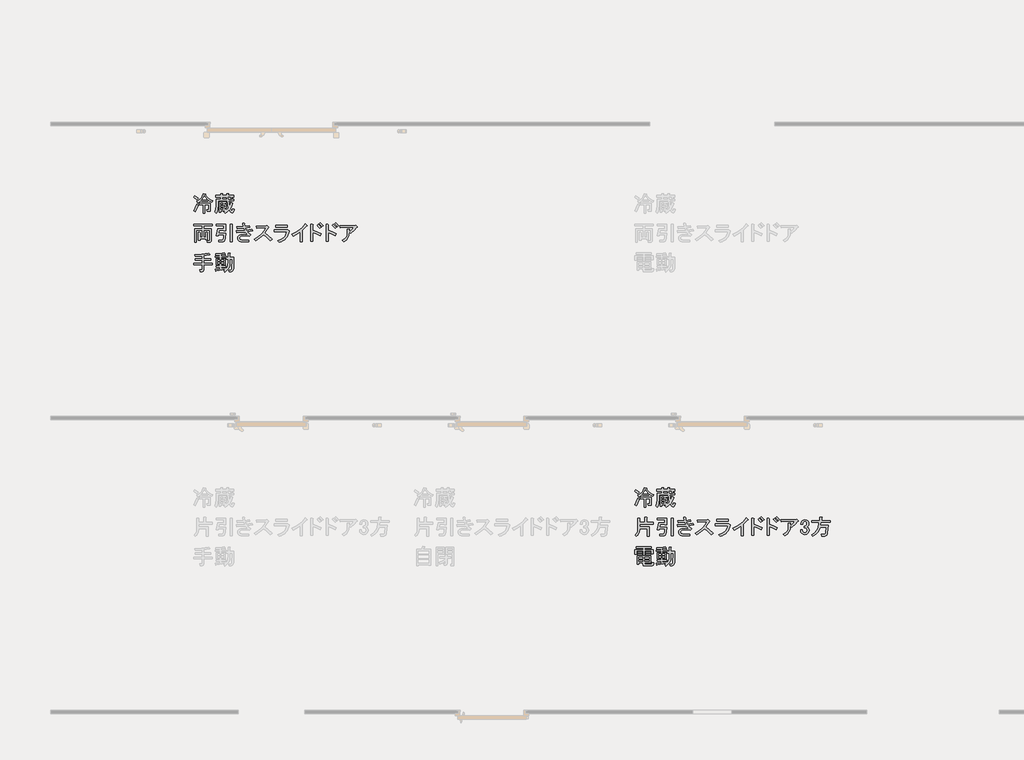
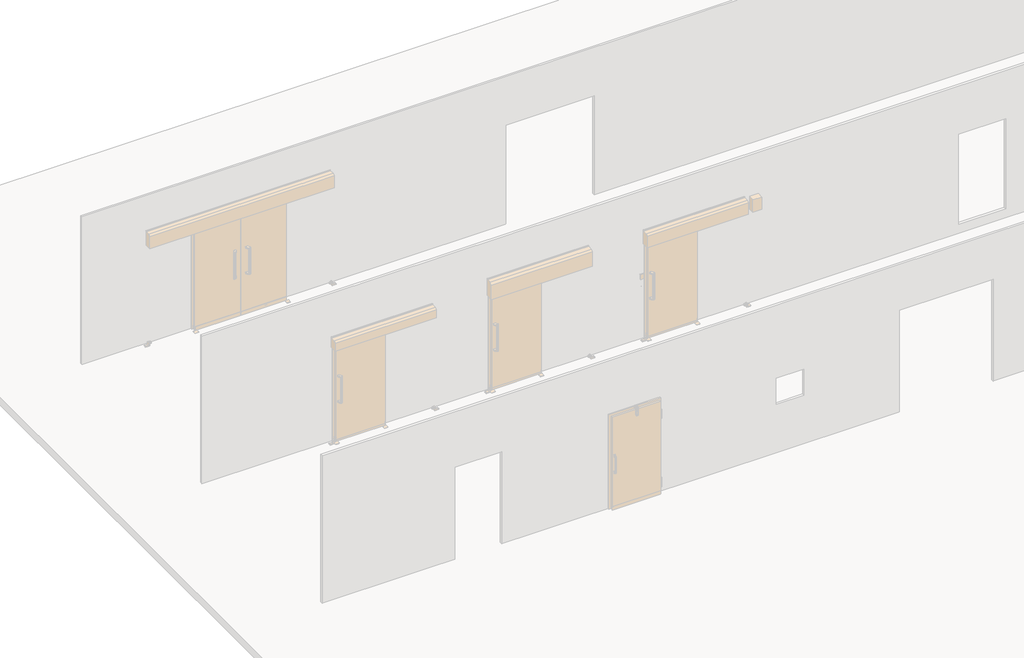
# One storey, part 76 of 117: 2 proxies.
"""IFC4 building model written with IfcOpenShell, lengths in millimetres."""

from ifc_helpers import new_model, si_unit, frame, origin, place, context, project, spatial, polyline, outline, extrude, element, save

model = new_model("IFC4")

# Units and contexts
model_context = context("Model", 3, world=origin())
ifc_project = project(units=[si_unit("LENGTHUNIT", "METRE", prefix="MILLI")], contexts=[model_context])

# Site, building, storey
site = spatial("IfcSite", under=ifc_project)
building = spatial("IfcBuilding", under=site)
storey = spatial("IfcBuildingStorey", under=building, Name="レベル 1", Elevation=500.0)

# Proxies
placement = place(None, origin())
element("IfcBuildingElementProxy", 1, Name="200㎜\u3000MS Pゴシック", ObjectType="200㎜\u3000MS Pゴシック", at=placement, inside=storey, context=model_context, shape_type="SweptSolid", body=[
    extrude(outline(polyline([(-24116.3970532, 26948.5050774), (-24082.7035553, 26967.9021871), (-24056.3378543, 26991.6097656), (-24037.2999504, 27019.6278129), (-24025.5898434, 27051.9563291), (-23994.5544679, 27043.9101206), (-23993.117645, 27040.174381), (-23998.002843, 27038.1628289), (-23979.1804624, 27010.6476696), (-23956.0476131, 26987.874026), (-23928.6042949, 26969.8418981), (-23896.850508, 26956.5512859), (-23908.3450915, 26932.4126605), (-23937.3689149, 26945.9187961), (-23966.9674674, 26965.7469527), (-23966.9674674, 26946.2061607), (-24049.7284688, 26946.2061607), (-24049.7284688, 26964.5974943), (-24074.1544588, 26942.7577856), (-24103.7530113, 26923.2169937), (-24116.3970532, 26948.5050774)]), holes=[polyline([(-23969.2663841, 26968.0458694), (-23995.4165617, 26995.3455052), (-24011.7963432, 27022.0704119), (-24025.5898434, 26993.0465885), (-24046.2800937, 26968.0458694), (-23969.2663841, 26968.0458694)])]), frame((0.0, 0.0, 500.0), z_axis=(0.0, 0.0, 1.0), x_axis=(1.0, 0.0, 0.0)), (0.0, 0.0, 1.0), 25.0),
    extrude(outline(polyline([(-24158.9270122, 26822.0646587), (-24135.9378452, 26861.7209718), (-24117.5465116, 26904.82566), (-24096.8562612, 26892.1816181), (-24114.3855011, 26848.2148362), (-24132.4894701, 26812.8689919), (-24133.0641993, 26806.5469709), (-24137.0873035, 26805.9722417), (-24158.9270122, 26822.0646587)])), frame((0.0, 0.0, 500.0), z_axis=(0.0, 0.0, 1.0), x_axis=(1.0, 0.0, 0.0)), (0.0, 0.0, 1.0), 25.0),
    extrude(outline(polyline([(-24079.6143859, 26897.9289099), (-24079.6143859, 26919.7686186), (-23930.1848002, 26919.7686186), (-23930.1848002, 26825.5130337), (-23934.2079044, 26814.3058148), (-23946.2772171, 26810.5700752), (-23971.5653009, 26810.5700752), (-23976.1631343, 26832.4097838), (-23957.7718006, 26832.4097838), (-23954.3234256, 26833.5592422), (-23953.1739672, 26837.0076172), (-23953.1739672, 26897.9289099), (-24007.1985098, 26897.9289099), (-24007.1985098, 26786.4314498), (-24030.1876768, 26786.4314498), (-24030.1876768, 26897.9289099), (-24079.6143859, 26897.9289099)])), frame((0.0, 0.0, 500.0), z_axis=(0.0, 0.0, 1.0), x_axis=(1.0, 0.0, 0.0)), (0.0, 0.0, 1.0), 25.0),
    extrude(outline(polyline([(-24141.685137, 27022.0704119), (-24120.9948866, 27009.1390055), (-24098.0057196, 26988.7361197), (-24114.0981365, 26965.7469527), (-24155.4786372, 27000.2307032), (-24141.685137, 27022.0704119)])), frame((0.0, 0.0, 500.0), z_axis=(0.0, 0.0, 1.0), x_axis=(1.0, 0.0, 0.0)), (0.0, 0.0, 1.0), 25.0),
    extrude(outline(polyline([(-23711.7877133, 26826.6624921), (-23685.3501712, 26853.1000342), (-23695.4079318, 26900.8025558), (-23700.2931298, 26954.2523692), (-23825.5840901, 26954.2523692), (-23825.5840901, 26879.5375763), (-23827.1645954, 26853.5310811), (-23831.9061111, 26829.536138), (-23839.8086373, 26807.552747), (-23850.8721739, 26787.5809081), (-23871.5624242, 26803.673325), (-23861.5046636, 26821.9209764), (-23854.3205489, 26842.1801798), (-23848.5732572, 26888.7332431), (-23848.5732572, 26976.0920778), (-23701.4425881, 26976.0920778), (-23701.4425881, 26987.5866614), (-23708.3393382, 26987.5866614), (-23708.3393382, 27005.977995), (-23768.1111725, 27005.977995), (-23768.1111725, 26984.1382863), (-23791.1003396, 26984.1382863), (-23791.1003396, 27005.977995), (-23860.0678407, 27005.977995), (-23860.0678407, 27027.8177037), (-23791.1003396, 27027.8177037), (-23791.1003396, 27053.1057874), (-23769.2606309, 27053.1057874), (-23764.3754329, 27050.8068707), (-23768.1111725, 27046.2090373), (-23768.1111725, 27027.8177037), (-23708.3393382, 27027.8177037), (-23708.3393382, 27053.1057874), (-23686.4996295, 27053.1057874), (-23681.6144316, 27050.8068707), (-23685.3501712, 27046.2090373), (-23685.3501712, 27027.8177037), (-23615.2332117, 27027.8177037), (-23615.2332117, 27005.977995), (-23652.015879, 27005.977995), (-23629.0267119, 26989.8855781), (-23642.8202122, 26976.0920778), (-23614.0837534, 26976.0920778), (-23614.0837534, 26954.2523692), (-23678.4534211, 26954.2523692), (-23669.2577543, 26877.2386596), (-23649.7169623, 26932.4126605), (-23626.7277952, 26922.0675353), (-23623.2794202, 26918.3317957), (-23629.0267119, 26916.3202435), (-23642.245483, 26882.4112222), (-23658.9126291, 26849.6516591), (-23646.8433164, 26828.099315), (-23635.9234621, 26820.9152003), (-23631.9003578, 26824.3635754), (-23629.0267119, 26834.7087005), (-23626.7277952, 26849.6516591), (-23604.8880866, 26841.6054507), (-23608.3364616, 26824.3635754), (-23617.819493, 26798.5007625), (-23624.5007197, 26792.0350592), (-23632.475087, 26789.8798248), (-23642.3891653, 26792.394265), (-23652.5906082, 26799.9375854), (-23673.8555877, 26830.1108671), (-23703.4541402, 26802.5238667), (-23730.1790469, 26784.1325331), (-23746.2714639, 26804.8227834), (-23723.2822968, 26818.6162836), (-23789.9508812, 26818.6162836), (-23789.9508812, 26801.3744083), (-23809.4916732, 26801.3744083), (-23809.4916732, 26942.7577856), (-23710.6382549, 26942.7577856), (-23710.6382549, 26924.366452), (-23743.9725471, 26924.366452), (-23743.9725471, 26908.2740351), (-23715.2360883, 26908.2740351), (-23715.2360883, 26855.3989509), (-23743.9725471, 26855.3989509), (-23743.9725471, 26837.0076172), (-23711.7877133, 26837.0076172), (-23711.7877133, 26826.6624921)]), holes=[polyline([(-23680.7523378, 26988.7361197), (-23675.8671398, 26986.1498384), (-23679.6028794, 26982.988828), (-23679.6028794, 26976.0920778), (-23646.2685872, 26976.0920778), (-23669.2577543, 26993.3339531), (-23656.6137124, 27005.977995), (-23685.3501712, 27005.977995), (-23685.3501712, 26988.7361197), (-23680.7523378, 26988.7361197)]), polyline([(-23789.9508812, 26908.2740351), (-23763.5133391, 26908.2740351), (-23763.5133391, 26924.366452), (-23789.9508812, 26924.366452), (-23789.9508812, 26908.2740351)]), polyline([(-23789.9508812, 26873.7902845), (-23734.7768803, 26873.7902845), (-23734.7768803, 26889.8827014), (-23789.9508812, 26889.8827014), (-23789.9508812, 26873.7902845)]), polyline([(-23789.9508812, 26837.0076172), (-23763.5133391, 26837.0076172), (-23763.5133391, 26855.3989509), (-23789.9508812, 26855.3989509), (-23789.9508812, 26837.0076172)])]), frame((0.0, 0.0, 500.0), z_axis=(0.0, 0.0, 1.0), x_axis=(1.0, 0.0, 0.0)), (0.0, 0.0, 1.0), 25.0),
    extrude(outline(polyline([(-24019.8425516, 26611.7252868), (-24019.8425516, 26576.0920778), (-23918.6902167, 26576.0920778), (-23918.6902167, 26407.1217001), (-23922.7133209, 26395.0523874), (-23934.7826336, 26391.0292832), (-23970.4158425, 26391.0292832), (-23973.8642176, 26412.8689919), (-23946.2772171, 26412.8689919), (-23942.8288421, 26414.0184502), (-23941.6793837, 26417.4668253), (-23941.6793837, 26554.2523692), (-24019.8425516, 26554.2523692), (-24019.8425516, 26458.8473259), (-23992.2555512, 26458.8473259), (-23992.2555512, 26524.366452), (-23970.4158425, 26524.366452), (-23965.5306445, 26522.0675353), (-23969.2663841, 26517.4697019), (-23969.2663841, 26426.6624921), (-23992.2555512, 26426.6624921), (-23992.2555512, 26437.0076172), (-24070.4187191, 26437.0076172), (-24070.4187191, 26417.4668253), (-24093.4078862, 26417.4668253), (-24093.4078862, 26524.366452), (-24071.5681775, 26524.366452), (-24066.6829795, 26522.0675353), (-24070.4187191, 26517.4697019), (-24070.4187191, 26458.8473259), (-24042.8317187, 26458.8473259), (-24042.8317187, 26554.2523692), (-24120.9948866, 26554.2523692), (-24120.9948866, 26392.1787415), (-24143.9840537, 26392.1787415), (-24143.9840537, 26576.0920778), (-24042.8317187, 26576.0920778), (-24042.8317187, 26611.7252868), (-24157.7775539, 26611.7252868), (-24157.7775539, 26633.5649954), (-23904.8967164, 26633.5649954), (-23904.8967164, 26611.7252868), (-24019.8425516, 26611.7252868)])), frame((0.0, 0.0, 500.0), z_axis=(0.0, 0.0, 1.0), x_axis=(1.0, 0.0, 0.0)), (0.0, 0.0, 1.0), 25.0),
    extrude(outline(polyline([(-23719.8339218, 26511.7224101), (-23729.0295886, 26441.8928152), (-23735.3516095, 26419.2628539), (-23742.8230888, 26404.8227834), (-23753.4555786, 26397.0639395), (-23769.2606309, 26394.4776582), (-23815.238965, 26394.4776582), (-23818.68734, 26416.3173669), (-23776.157381, 26416.3173669), (-23765.5248912, 26418.328919), (-23758.9155057, 26424.3635754), (-23750.8692973, 26448.2148362), (-23745.1220055, 26489.8827014), (-23822.1357151, 26489.8827014), (-23824.4346318, 26478.3881179), (-23848.5732572, 26481.836493), (-23832.4808403, 26574.9426195), (-23746.2714639, 26574.9426195), (-23746.2714639, 26611.7252868), (-23852.0216322, 26611.7252868), (-23852.0216322, 26633.5649954), (-23723.2822968, 26633.5649954), (-23723.2822968, 26547.355619), (-23746.2714639, 26547.355619), (-23746.2714639, 26553.1029108), (-23810.6411316, 26553.1029108), (-23817.5378817, 26511.7224101), (-23719.8339218, 26511.7224101)])), frame((0.0, 0.0, 500.0), z_axis=(0.0, 0.0, 1.0), x_axis=(1.0, 0.0, 0.0)), (0.0, 0.0, 1.0), 25.0),
    extrude(outline(polyline([(-23633.6245454, 26396.7765749), (-23656.6137124, 26396.7765749), (-23656.6137124, 26637.0133705), (-23634.7740037, 26637.0133705), (-23629.8888057, 26634.7144538), (-23633.6245454, 26630.1166204), (-23633.6245454, 26396.7765749)])), frame((0.0, 0.0, 500.0), z_axis=(0.0, 0.0, 1.0), x_axis=(1.0, 0.0, 0.0)), (0.0, 0.0, 1.0), 25.0),
    extrude(outline(polyline([(-23453.1595841, 26582.988828), (-23439.3660839, 26554.2523692), (-23366.9502077, 26570.3447861), (-23356.6050825, 26546.2061607), (-23426.722042, 26533.5621188), (-23406.8938854, 26511.147681), (-23381.8931663, 26489.8827014), (-23401.4339582, 26470.3419095), (-23438.5039901, 26477.2386596), (-23466.9530843, 26479.5375763), (-23504.8852099, 26476.0892012), (-23517.8166164, 26471.7787324), (-23526.7249186, 26465.7440761), (-23532.759575, 26457.410503), (-23534.7711271, 26448.5022008), (-23533.0469395, 26438.1570756), (-23527.874377, 26430.1108671), (-23510.3451371, 26423.214117), (-23476.1487511, 26420.9152003), (-23406.0317916, 26420.9152003), (-23410.6296251, 26395.6271166), (-23480.7465845, 26395.6271166), (-23519.8281685, 26400.22495), (-23534.1963979, 26405.9722417), (-23545.1162522, 26414.0184502), (-23555.4613774, 26429.8235025), (-23558.9097525, 26449.6516591), (-23555.748742, 26465.7440761), (-23546.2657106, 26479.5375763), (-23533.9090333, 26488.0866728), (-23516.3797934, 26494.1931703), (-23465.803626, 26499.0783683), (-23424.4231253, 26495.6299932), (-23453.1595841, 26528.9642854), (-23509.7704079, 26523.7917228), (-23571.5537943, 26522.0675353), (-23575.0021694, 26546.2061607), (-23518.103981, 26546.7808899), (-23464.6541676, 26550.8039941), (-23477.2982095, 26579.5404529), (-23565.8065026, 26576.0920778), (-23568.1054193, 26599.0812449), (-23483.0455012, 26601.3801616), (-23492.2411681, 26648.507954), (-23466.9530843, 26648.507954), (-23460.918428, 26645.059579), (-23465.803626, 26639.3122872), (-23460.0563342, 26604.8285366), (-23399.1350415, 26616.3231202), (-23391.0888331, 26593.3339531), (-23453.1595841, 26582.988828)])), frame((0.0, 0.0, 500.0), z_axis=(0.0, 0.0, 1.0), x_axis=(1.0, 0.0, 0.0)), (0.0, 0.0, 1.0), 25.0),
    extrude(outline(polyline([(-23188.7381848, 26517.4697019), (-23139.5988402, 26476.6639304), (-23091.0342249, 26430.1108671), (-23114.0233919, 26410.5700752), (-23161.4385489, 26457.1231384), (-23207.1295184, 26495.6299932), (-23255.1194046, 26449.9390237), (-23309.4313117, 26409.4206168), (-23331.2710204, 26428.9614088), (-23275.8096549, 26468.6177219), (-23231.2681438, 26508.2740351), (-23197.646487, 26547.9303482), (-23174.9446846, 26587.5866614), (-23300.2356449, 26579.5404529), (-23303.68402, 26607.1274534), (-23170.3468511, 26612.8747451), (-23156.5533509, 26616.3231202), (-23138.1620173, 26597.9317865), (-23135.2883714, 26591.322401), (-23142.7598507, 26587.5866614), (-23188.7381848, 26517.4697019)])), frame((0.0, 0.0, 500.0), z_axis=(0.0, 0.0, 1.0), x_axis=(1.0, 0.0, 0.0)), (0.0, 0.0, 1.0), 25.0),
    extrude(outline(polyline([(-23014.7101903, 26411.7195335), (-22965.0679577, 26430.039026), (-22944.8267145, 26442.1622195), (-22927.6387201, 26456.2610446), (-22913.5039744, 26472.3355013), (-22902.4224775, 26490.3855895), (-22894.3942293, 26510.4113092), (-22889.4192299, 26532.4126605), (-23064.1368994, 26532.4126605), (-23064.1368994, 26557.7007442), (-22888.2697716, 26557.7007442), (-22877.9246464, 26561.1491193), (-22857.234396, 26548.5050774), (-22854.3607502, 26543.0451502), (-22859.5333128, 26538.1599522), (-22865.6577705, 26510.6807135), (-22874.8354771, 26485.7159149), (-22887.0664323, 26463.2655565), (-22902.3506364, 26443.3296382), (-22920.6880891, 26425.90816), (-22942.0787907, 26411.001122), (-22966.5227409, 26398.6085242), (-22994.0199399, 26388.7303665), (-23014.7101903, 26411.7195335)])), frame((0.0, 0.0, 500.0), z_axis=(0.0, 0.0, 1.0), x_axis=(1.0, 0.0, 0.0)), (0.0, 0.0, 1.0), 25.0),
    extrude(outline(polyline([(-22884.8213965, 26597.9317865), (-23043.4466491, 26597.9317865), (-23043.4466491, 26623.2198703), (-22884.8213965, 26623.2198703), (-22884.8213965, 26597.9317865)])), frame((0.0, 0.0, 500.0), z_axis=(0.0, 0.0, 1.0), x_axis=(1.0, 0.0, 0.0)), (0.0, 0.0, 1.0), 25.0),
    extrude(outline(polyline([(-22822.3368405, 26496.7794516), (-22765.6541755, 26524.6538166), (-22716.2993075, 26557.7007442), (-22674.2722365, 26595.9202344), (-22639.5729625, 26639.3122872), (-22617.7332538, 26620.9209536), (-22615.1469725, 26614.8862972), (-22625.7794623, 26610.5758284), (-22650.7801814, 26581.552005), (-22682.1029215, 26551.9534525), (-22682.1029215, 26395.6271166), (-22708.5404636, 26395.6271166), (-22708.5404636, 26530.1137438), (-22752.219881, 26500.5151912), (-22802.7960485, 26473.7902845), (-22822.3368405, 26496.7794516)])), frame((0.0, 0.0, 500.0), z_axis=(0.0, 0.0, 1.0), x_axis=(1.0, 0.0, 0.0)), (0.0, 0.0, 1.0), 25.0),
    extrude(outline(polyline([(-22412.0721655, 26603.6790783), (-22429.0266762, 26622.9325057), (-22450.0042911, 26641.6112039), (-22435.0613325, 26653.1057874), (-22415.8079051, 26636.7260059), (-22397.1292069, 26615.1736618), (-22412.0721655, 26603.6790783)])), frame((0.0, 0.0, 500.0), z_axis=(0.0, 0.0, 1.0), x_axis=(1.0, 0.0, 0.0)), (0.0, 0.0, 1.0), 25.0),
    extrude(outline(polyline([(-22437.3602492, 26480.6870346), (-22492.8216147, 26506.5498475), (-22537.3631258, 26522.0675353), (-22537.3631258, 26402.5238667), (-22563.8006679, 26402.5238667), (-22563.8006679, 26632.4155371), (-22540.8115009, 26632.4155371), (-22533.052657, 26629.5418912), (-22537.3631258, 26623.2198703), (-22537.3631258, 26550.8039941), (-22480.752302, 26531.8379313), (-22423.566749, 26507.1245767), (-22437.3602492, 26480.6870346)])), frame((0.0, 0.0, 500.0), z_axis=(0.0, 0.0, 1.0), x_axis=(1.0, 0.0, 0.0)), (0.0, 0.0, 1.0), 25.0),
    extrude(outline(polyline([(-22439.6591659, 26581.8393696), (-22459.1999579, 26603.6790783), (-22478.7407499, 26620.9209536), (-22463.7977913, 26632.4155371), (-22444.2569993, 26615.1736618), (-22424.7162073, 26593.3339531), (-22439.6591659, 26581.8393696)])), frame((0.0, 0.0, 500.0), z_axis=(0.0, 0.0, 1.0), x_axis=(1.0, 0.0, 0.0)), (0.0, 0.0, 1.0), 25.0),
    extrude(outline(polyline([(-22228.4346991, 26480.6870346), (-22283.8960646, 26506.5498475), (-22328.4375758, 26522.0675353), (-22328.4375758, 26402.5238667), (-22354.8751179, 26402.5238667), (-22354.8751179, 26632.4155371), (-22331.8859508, 26632.4155371), (-22324.127107, 26629.5418912), (-22328.4375758, 26623.2198703), (-22328.4375758, 26550.8039941), (-22271.8267519, 26531.8379313), (-22214.6411989, 26507.1245767), (-22228.4346991, 26480.6870346)])), frame((0.0, 0.0, 500.0), z_axis=(0.0, 0.0, 1.0), x_axis=(1.0, 0.0, 0.0)), (0.0, 0.0, 1.0), 25.0),
    extrude(outline(polyline([(-22230.7336159, 26581.8393696), (-22250.2744078, 26603.6790783), (-22269.8151998, 26620.9209536), (-22254.8722412, 26632.4155371), (-22235.3314493, 26615.1736618), (-22215.7906573, 26593.3339531), (-22230.7336159, 26581.8393696)])), frame((0.0, 0.0, 500.0), z_axis=(0.0, 0.0, 1.0), x_axis=(1.0, 0.0, 0.0)), (0.0, 0.0, 1.0), 25.0),
    extrude(outline(polyline([(-22203.1466154, 26603.6790783), (-22220.1011261, 26622.9325057), (-22241.078741, 26641.6112039), (-22226.1357824, 26653.1057874), (-22206.882355, 26636.7260059), (-22188.2036568, 26615.1736618), (-22203.1466154, 26603.6790783)])), frame((0.0, 0.0, 500.0), z_axis=(0.0, 0.0, 1.0), x_axis=(1.0, 0.0, 0.0)), (0.0, 0.0, 1.0), 25.0),
    extrude(outline(polyline([(-22040.1993994, 26530.1137438), (-22044.0069802, 26488.8769254), (-22057.7286393, 26452.525305), (-22081.3643766, 26421.0588826), (-22114.9141923, 26394.4776582), (-22134.4549843, 26416.3173669), (-22104.7845906, 26436.5765704), (-22083.5914522, 26460.5715135), (-22070.8755692, 26488.3021962), (-22066.6369415, 26519.7686186), (-22066.6369415, 26569.1953277), (-22042.4983161, 26569.1953277), (-22036.7510244, 26566.6090464), (-22040.1993994, 26561.1491193), (-22040.1993994, 26531.2632021), (-22003.7040967, 26562.011213), (-21976.9791901, 26592.1844948), (-22164.3409014, 26585.2877447), (-22166.6398181, 26611.7252868), (-21957.4383981, 26617.4725785), (-21949.3921896, 26619.7714952), (-21932.1503143, 26599.0812449), (-21931.8629497, 26595.9202344), (-21937.8976061, 26595.6328698), (-21975.8297317, 26552.240817), (-22020.6586074, 26511.7224101), (-22040.1993994, 26530.1137438)])), frame((0.0, 0.0, 500.0), z_axis=(0.0, 0.0, 1.0), x_axis=(1.0, 0.0, 0.0)), (0.0, 0.0, 1.0), 25.0),
    extrude(outline(polyline([(-24141.685137, 26219.7714952), (-24045.418, 26226.0935162), (-23954.3234256, 26242.7606623), (-23939.380467, 26224.3693286), (-23936.7941857, 26217.4725785), (-23945.1277588, 26217.4725785), (-24018.6930933, 26205.977995), (-24018.6930933, 26164.5974943), (-23927.8858835, 26164.5974943), (-23927.8858835, 26142.7577856), (-24018.6930933, 26142.7577856), (-24018.6930933, 26103.6762017), (-23903.7472581, 26103.6762017), (-23903.7472581, 26081.836493), (-24018.6930933, 26081.836493), (-24018.6930933, 26012.8689919), (-24023.5782913, 25997.3513041), (-24029.6847888, 25993.4718822), (-24038.2338853, 25992.1787415), (-24068.1198024, 25992.1787415), (-24073.8670942, 26017.4668253), (-24045.1306354, 26017.4668253), (-24041.6822603, 26020.9152003), (-24041.6822603, 26081.836493), (-24158.9270122, 26081.836493), (-24158.9270122, 26103.6762017), (-24041.6822603, 26103.6762017), (-24041.6822603, 26142.7577856), (-24134.7883868, 26142.7577856), (-24134.7883868, 26164.5974943), (-24041.6822603, 26164.5974943), (-24041.6822603, 26202.5296199), (-24135.9378452, 26197.9317865), (-24141.685137, 26219.7714952)])), frame((0.0, 0.0, 500.0), z_axis=(0.0, 0.0, 1.0), x_axis=(1.0, 0.0, 0.0)), (0.0, 0.0, 1.0), 25.0),
    extrude(outline(polyline([(-23748.5703806, 26007.1217001), (-23724.4317552, 26024.3635754), (-23853.1710906, 26000.22495), (-23855.1826427, 25995.339752), (-23858.9183824, 25996.7765749), (-23865.8151325, 26022.0646587), (-23799.146548, 26030.1108671), (-23799.146548, 26050.8011175), (-23853.1710906, 26050.8011175), (-23853.1710906, 26069.1924511), (-23799.146548, 26069.1924511), (-23799.146548, 26086.4343264), (-23825.5840901, 26086.4343264), (-23850.8721739, 26086.4343264), (-23850.8721739, 26168.0458694), (-23799.146548, 26168.0458694), (-23799.146548, 26184.1382863), (-23865.8151325, 26184.1382863), (-23865.8151325, 26202.5296199), (-23799.146548, 26202.5296199), (-23799.146548, 26216.3231202), (-23856.6194656, 26214.0242035), (-23860.0678407, 26233.5649954), (-23801.7328293, 26236.7260059), (-23739.3747137, 26246.2090373), (-23729.0295886, 26226.6682453), (-23729.0295886, 26222.6451411), (-23735.9263387, 26224.3693286), (-23779.6057561, 26218.6220369), (-23779.6057561, 26202.5296199), (-23716.3855467, 26202.5296199), (-23716.3855467, 26184.1382863), (-23779.6057561, 26184.1382863), (-23779.6057561, 26168.0458694), (-23726.7306719, 26168.0458694), (-23726.7306719, 26086.4343264), (-23779.6057561, 26086.4343264), (-23779.6057561, 26069.1924511), (-23722.1328385, 26069.1924511), (-23722.1328385, 26050.8011175), (-23779.6057561, 26050.8011175), (-23779.6057561, 26033.5592422), (-23722.1328385, 26042.754909), (-23722.1328385, 26026.6624921), (-23707.4772445, 26043.5451616), (-23696.8447547, 26064.3072531), (-23690.2353692, 26088.9487665), (-23687.6490879, 26117.4697019), (-23686.4996295, 26162.2985776), (-23714.08663, 26162.2985776), (-23714.08663, 26184.1382863), (-23686.4996295, 26184.1382863), (-23686.4996295, 26242.7606623), (-23664.6599209, 26242.7606623), (-23659.7747229, 26240.4617456), (-23663.5104625, 26235.8639122), (-23663.5104625, 26184.1382863), (-23612.934295, 26184.1382863), (-23615.2332117, 26032.4097838), (-23617.5321284, 26014.3058148), (-23623.2794202, 26001.3744083), (-23632.475087, 25993.6155645), (-23645.1191289, 25991.0292832), (-23676.1545044, 25991.0292832), (-23679.6028794, 26012.8689919), (-23653.1653373, 26012.8689919), (-23647.0588398, 26014.3776559), (-23642.5328476, 26018.9036482), (-23638.2223788, 26037.0076172), (-23634.7740037, 26162.2985776), (-23663.5104625, 26162.2985776), (-23664.6599209, 26108.2740351), (-23669.4732777, 26070.8447975), (-23682.7638899, 26037.869711), (-23704.5317574, 26009.3487757), (-23734.7768803, 25985.2819914), (-23748.5703806, 26007.1217001)]), holes=[polyline([(-23779.6057561, 26120.9180769), (-23779.6057561, 26100.2278266), (-23746.2714639, 26100.2278266), (-23746.2714639, 26120.9180769), (-23779.6057561, 26120.9180769)]), polyline([(-23779.6057561, 26154.2523692), (-23779.6057561, 26134.7115772), (-23746.2714639, 26134.7115772), (-23746.2714639, 26154.2523692), (-23779.6057561, 26154.2523692)]), polyline([(-23831.3313819, 26120.9180769), (-23831.3313819, 26100.2278266), (-23799.146548, 26100.2278266), (-23799.146548, 26120.9180769), (-23831.3313819, 26120.9180769)]), polyline([(-23831.3313819, 26154.2523692), (-23831.3313819, 26134.7115772), (-23799.146548, 26134.7115772), (-23799.146548, 26154.2523692), (-23831.3313819, 26154.2523692)])]), frame((0.0, 0.0, 500.0), z_axis=(0.0, 0.0, 1.0), x_axis=(1.0, 0.0, 0.0)), (0.0, 0.0, 1.0), 25.0),
])
element("IfcBuildingElementProxy", 2, Name="200㎜\u3000MS Pゴシック", ObjectType="200㎜\u3000MS Pゴシック", at=placement, inside=storey, context=model_context, shape_type="SweptSolid", body=[
    extrude(outline(polyline([(-18116.3970532, 22948.5050774), (-18082.7035553, 22967.9021871), (-18056.3378543, 22991.6097656), (-18037.2999504, 23019.6278129), (-18025.5898434, 23051.9563291), (-17994.5544679, 23043.9101206), (-17993.117645, 23040.174381), (-17998.002843, 23038.1628289), (-17979.1804624, 23010.6476696), (-17956.0476131, 22987.874026), (-17928.6042949, 22969.8418981), (-17896.850508, 22956.5512859), (-17908.3450915, 22932.4126605), (-17937.3689149, 22945.9187961), (-17966.9674674, 22965.7469527), (-17966.9674674, 22946.2061607), (-18049.7284688, 22946.2061607), (-18049.7284688, 22964.5974943), (-18074.1544588, 22942.7577856), (-18103.7530113, 22923.2169937), (-18116.3970532, 22948.5050774)]), holes=[polyline([(-17969.2663841, 22968.0458694), (-17995.4165617, 22995.3455052), (-18011.7963432, 23022.0704119), (-18025.5898434, 22993.0465885), (-18046.2800937, 22968.0458694), (-17969.2663841, 22968.0458694)])]), frame((0.0, 0.0, 500.0), z_axis=(0.0, 0.0, 1.0), x_axis=(1.0, 0.0, 0.0)), (0.0, 0.0, 1.0), 25.0),
    extrude(outline(polyline([(-18158.9270122, 22822.0646587), (-18135.9378452, 22861.7209718), (-18117.5465116, 22904.82566), (-18096.8562612, 22892.1816181), (-18114.3855011, 22848.2148362), (-18132.4894701, 22812.8689919), (-18133.0641993, 22806.5469709), (-18137.0873035, 22805.9722417), (-18158.9270122, 22822.0646587)])), frame((0.0, 0.0, 500.0), z_axis=(0.0, 0.0, 1.0), x_axis=(1.0, 0.0, 0.0)), (0.0, 0.0, 1.0), 25.0),
    extrude(outline(polyline([(-18079.6143859, 22897.9289099), (-18079.6143859, 22919.7686186), (-17930.1848002, 22919.7686186), (-17930.1848002, 22825.5130337), (-17934.2079044, 22814.3058148), (-17946.2772171, 22810.5700752), (-17971.5653009, 22810.5700752), (-17976.1631343, 22832.4097838), (-17957.7718006, 22832.4097838), (-17954.3234256, 22833.5592422), (-17953.1739672, 22837.0076172), (-17953.1739672, 22897.9289099), (-18007.1985098, 22897.9289099), (-18007.1985098, 22786.4314498), (-18030.1876768, 22786.4314498), (-18030.1876768, 22897.9289099), (-18079.6143859, 22897.9289099)])), frame((0.0, 0.0, 500.0), z_axis=(0.0, 0.0, 1.0), x_axis=(1.0, 0.0, 0.0)), (0.0, 0.0, 1.0), 25.0),
    extrude(outline(polyline([(-18141.685137, 23022.0704119), (-18120.9948866, 23009.1390055), (-18098.0057196, 22988.7361197), (-18114.0981365, 22965.7469527), (-18155.4786372, 23000.2307032), (-18141.685137, 23022.0704119)])), frame((0.0, 0.0, 500.0), z_axis=(0.0, 0.0, 1.0), x_axis=(1.0, 0.0, 0.0)), (0.0, 0.0, 1.0), 25.0),
    extrude(outline(polyline([(-17711.7877133, 22826.6624921), (-17685.3501712, 22853.1000342), (-17695.4079318, 22900.8025558), (-17700.2931298, 22954.2523692), (-17825.5840901, 22954.2523692), (-17825.5840901, 22879.5375763), (-17827.1645954, 22853.5310811), (-17831.9061111, 22829.536138), (-17839.8086373, 22807.552747), (-17850.8721739, 22787.5809081), (-17871.5624242, 22803.673325), (-17861.5046636, 22821.9209764), (-17854.3205489, 22842.1801798), (-17848.5732572, 22888.7332431), (-17848.5732572, 22976.0920778), (-17701.4425881, 22976.0920778), (-17701.4425881, 22987.5866614), (-17708.3393382, 22987.5866614), (-17708.3393382, 23005.977995), (-17768.1111725, 23005.977995), (-17768.1111725, 22984.1382863), (-17791.1003396, 22984.1382863), (-17791.1003396, 23005.977995), (-17860.0678407, 23005.977995), (-17860.0678407, 23027.8177037), (-17791.1003396, 23027.8177037), (-17791.1003396, 23053.1057874), (-17769.2606309, 23053.1057874), (-17764.3754329, 23050.8068707), (-17768.1111725, 23046.2090373), (-17768.1111725, 23027.8177037), (-17708.3393382, 23027.8177037), (-17708.3393382, 23053.1057874), (-17686.4996295, 23053.1057874), (-17681.6144316, 23050.8068707), (-17685.3501712, 23046.2090373), (-17685.3501712, 23027.8177037), (-17615.2332117, 23027.8177037), (-17615.2332117, 23005.977995), (-17652.015879, 23005.977995), (-17629.0267119, 22989.8855781), (-17642.8202122, 22976.0920778), (-17614.0837534, 22976.0920778), (-17614.0837534, 22954.2523692), (-17678.4534211, 22954.2523692), (-17669.2577543, 22877.2386596), (-17649.7169623, 22932.4126605), (-17626.7277952, 22922.0675353), (-17623.2794202, 22918.3317957), (-17629.0267119, 22916.3202435), (-17642.245483, 22882.4112222), (-17658.9126291, 22849.6516591), (-17646.8433164, 22828.099315), (-17635.9234621, 22820.9152003), (-17631.9003578, 22824.3635754), (-17629.0267119, 22834.7087005), (-17626.7277952, 22849.6516591), (-17604.8880866, 22841.6054507), (-17608.3364616, 22824.3635754), (-17617.819493, 22798.5007625), (-17624.5007197, 22792.0350592), (-17632.475087, 22789.8798248), (-17642.3891653, 22792.394265), (-17652.5906082, 22799.9375854), (-17673.8555877, 22830.1108671), (-17703.4541402, 22802.5238667), (-17730.1790469, 22784.1325331), (-17746.2714639, 22804.8227834), (-17723.2822968, 22818.6162836), (-17789.9508812, 22818.6162836), (-17789.9508812, 22801.3744083), (-17809.4916732, 22801.3744083), (-17809.4916732, 22942.7577856), (-17710.6382549, 22942.7577856), (-17710.6382549, 22924.366452), (-17743.9725471, 22924.366452), (-17743.9725471, 22908.2740351), (-17715.2360883, 22908.2740351), (-17715.2360883, 22855.3989509), (-17743.9725471, 22855.3989509), (-17743.9725471, 22837.0076172), (-17711.7877133, 22837.0076172), (-17711.7877133, 22826.6624921)]), holes=[polyline([(-17680.7523378, 22988.7361197), (-17675.8671398, 22986.1498384), (-17679.6028794, 22982.988828), (-17679.6028794, 22976.0920778), (-17646.2685872, 22976.0920778), (-17669.2577543, 22993.3339531), (-17656.6137124, 23005.977995), (-17685.3501712, 23005.977995), (-17685.3501712, 22988.7361197), (-17680.7523378, 22988.7361197)]), polyline([(-17789.9508812, 22908.2740351), (-17763.5133391, 22908.2740351), (-17763.5133391, 22924.366452), (-17789.9508812, 22924.366452), (-17789.9508812, 22908.2740351)]), polyline([(-17789.9508812, 22873.7902845), (-17734.7768803, 22873.7902845), (-17734.7768803, 22889.8827014), (-17789.9508812, 22889.8827014), (-17789.9508812, 22873.7902845)]), polyline([(-17789.9508812, 22837.0076172), (-17763.5133391, 22837.0076172), (-17763.5133391, 22855.3989509), (-17789.9508812, 22855.3989509), (-17789.9508812, 22837.0076172)])]), frame((0.0, 0.0, 500.0), z_axis=(0.0, 0.0, 1.0), x_axis=(1.0, 0.0, 0.0)), (0.0, 0.0, 1.0), 25.0),
    extrude(outline(polyline([(-18091.1089695, 22637.0133705), (-18085.0743131, 22633.5649954), (-18089.9595111, 22627.8177037), (-18089.9595111, 22579.5404529), (-18018.6930933, 22579.5404529), (-18018.6930933, 22648.507954), (-17993.4050095, 22648.507954), (-17987.3703532, 22645.059579), (-17992.2555512, 22639.3122872), (-17992.2555512, 22579.5404529), (-17907.1956331, 22579.5404529), (-17907.1956331, 22554.2523692), (-18089.9595111, 22554.2523692), (-18089.9595111, 22517.4697019), (-17960.0707173, 22517.4697019), (-17960.0707173, 22388.7303665), (-17986.5082594, 22388.7303665), (-17986.5082594, 22492.1816181), (-18089.9595111, 22492.1816181), (-18089.9595111, 22480.6870346), (-18092.6894747, 22453.7466045), (-18100.8793655, 22429.2487734), (-18114.5291834, 22407.1935412), (-18133.6389285, 22387.5809081), (-18152.0302621, 22405.9722417), (-18134.9320691, 22421.5617706), (-18122.7190741, 22439.5938985), (-18115.3912772, 22460.0686254), (-18112.9486782, 22482.9859513), (-18112.9486782, 22637.0133705), (-18091.1089695, 22637.0133705)])), frame((0.0, 0.0, 500.0), z_axis=(0.0, 0.0, 1.0), x_axis=(1.0, 0.0, 0.0)), (0.0, 0.0, 1.0), 25.0),
    extrude(outline(polyline([(-17719.8339218, 22511.7224101), (-17729.0295886, 22441.8928152), (-17735.3516095, 22419.2628539), (-17742.8230888, 22404.8227834), (-17753.4555786, 22397.0639395), (-17769.2606309, 22394.4776582), (-17815.238965, 22394.4776582), (-17818.68734, 22416.3173669), (-17776.157381, 22416.3173669), (-17765.5248912, 22418.328919), (-17758.9155057, 22424.3635754), (-17750.8692973, 22448.2148362), (-17745.1220055, 22489.8827014), (-17822.1357151, 22489.8827014), (-17824.4346318, 22478.3881179), (-17848.5732572, 22481.836493), (-17832.4808403, 22574.9426195), (-17746.2714639, 22574.9426195), (-17746.2714639, 22611.7252868), (-17852.0216322, 22611.7252868), (-17852.0216322, 22633.5649954), (-17723.2822968, 22633.5649954), (-17723.2822968, 22547.355619), (-17746.2714639, 22547.355619), (-17746.2714639, 22553.1029108), (-17810.6411316, 22553.1029108), (-17817.5378817, 22511.7224101), (-17719.8339218, 22511.7224101)])), frame((0.0, 0.0, 500.0), z_axis=(0.0, 0.0, 1.0), x_axis=(1.0, 0.0, 0.0)), (0.0, 0.0, 1.0), 25.0),
    extrude(outline(polyline([(-17633.6245454, 22396.7765749), (-17656.6137124, 22396.7765749), (-17656.6137124, 22637.0133705), (-17634.7740037, 22637.0133705), (-17629.8888057, 22634.7144538), (-17633.6245454, 22630.1166204), (-17633.6245454, 22396.7765749)])), frame((0.0, 0.0, 500.0), z_axis=(0.0, 0.0, 1.0), x_axis=(1.0, 0.0, 0.0)), (0.0, 0.0, 1.0), 25.0),
    extrude(outline(polyline([(-17453.1595841, 22582.988828), (-17439.3660839, 22554.2523692), (-17366.9502077, 22570.3447861), (-17356.6050825, 22546.2061607), (-17426.722042, 22533.5621188), (-17406.8938854, 22511.147681), (-17381.8931663, 22489.8827014), (-17401.4339582, 22470.3419095), (-17438.5039901, 22477.2386596), (-17466.9530843, 22479.5375763), (-17504.8852099, 22476.0892012), (-17517.8166164, 22471.7787324), (-17526.7249186, 22465.7440761), (-17532.759575, 22457.410503), (-17534.7711271, 22448.5022008), (-17533.0469395, 22438.1570756), (-17527.874377, 22430.1108671), (-17510.3451371, 22423.214117), (-17476.1487511, 22420.9152003), (-17406.0317916, 22420.9152003), (-17410.6296251, 22395.6271166), (-17480.7465845, 22395.6271166), (-17519.8281685, 22400.22495), (-17534.1963979, 22405.9722417), (-17545.1162522, 22414.0184502), (-17555.4613774, 22429.8235025), (-17558.9097525, 22449.6516591), (-17555.748742, 22465.7440761), (-17546.2657106, 22479.5375763), (-17533.9090333, 22488.0866728), (-17516.3797934, 22494.1931703), (-17465.803626, 22499.0783683), (-17424.4231253, 22495.6299932), (-17453.1595841, 22528.9642854), (-17509.7704079, 22523.7917228), (-17571.5537943, 22522.0675353), (-17575.0021694, 22546.2061607), (-17518.103981, 22546.7808899), (-17464.6541676, 22550.8039941), (-17477.2982095, 22579.5404529), (-17565.8065026, 22576.0920778), (-17568.1054193, 22599.0812449), (-17483.0455012, 22601.3801616), (-17492.2411681, 22648.507954), (-17466.9530843, 22648.507954), (-17460.918428, 22645.059579), (-17465.803626, 22639.3122872), (-17460.0563342, 22604.8285366), (-17399.1350415, 22616.3231202), (-17391.0888331, 22593.3339531), (-17453.1595841, 22582.988828)])), frame((0.0, 0.0, 500.0), z_axis=(0.0, 0.0, 1.0), x_axis=(1.0, 0.0, 0.0)), (0.0, 0.0, 1.0), 25.0),
    extrude(outline(polyline([(-17188.7381848, 22517.4697019), (-17139.5988402, 22476.6639304), (-17091.0342249, 22430.1108671), (-17114.0233919, 22410.5700752), (-17161.4385489, 22457.1231384), (-17207.1295184, 22495.6299932), (-17255.1194046, 22449.9390237), (-17309.4313117, 22409.4206168), (-17331.2710204, 22428.9614088), (-17275.8096549, 22468.6177219), (-17231.2681438, 22508.2740351), (-17197.646487, 22547.9303482), (-17174.9446846, 22587.5866614), (-17300.2356449, 22579.5404529), (-17303.68402, 22607.1274534), (-17170.3468511, 22612.8747451), (-17156.5533509, 22616.3231202), (-17138.1620173, 22597.9317865), (-17135.2883714, 22591.322401), (-17142.7598507, 22587.5866614), (-17188.7381848, 22517.4697019)])), frame((0.0, 0.0, 500.0), z_axis=(0.0, 0.0, 1.0), x_axis=(1.0, 0.0, 0.0)), (0.0, 0.0, 1.0), 25.0),
    extrude(outline(polyline([(-17014.7101903, 22411.7195335), (-16965.0679577, 22430.039026), (-16944.8267145, 22442.1622195), (-16927.6387201, 22456.2610446), (-16913.5039744, 22472.3355013), (-16902.4224775, 22490.3855895), (-16894.3942293, 22510.4113092), (-16889.4192299, 22532.4126605), (-17064.1368994, 22532.4126605), (-17064.1368994, 22557.7007442), (-16888.2697716, 22557.7007442), (-16877.9246464, 22561.1491193), (-16857.234396, 22548.5050774), (-16854.3607502, 22543.0451502), (-16859.5333128, 22538.1599522), (-16865.6577705, 22510.6807135), (-16874.8354771, 22485.7159149), (-16887.0664323, 22463.2655565), (-16902.3506364, 22443.3296382), (-16920.6880891, 22425.90816), (-16942.0787907, 22411.001122), (-16966.5227409, 22398.6085242), (-16994.0199399, 22388.7303665), (-17014.7101903, 22411.7195335)])), frame((0.0, 0.0, 500.0), z_axis=(0.0, 0.0, 1.0), x_axis=(1.0, 0.0, 0.0)), (0.0, 0.0, 1.0), 25.0),
    extrude(outline(polyline([(-16884.8213965, 22597.9317865), (-17043.4466491, 22597.9317865), (-17043.4466491, 22623.2198703), (-16884.8213965, 22623.2198703), (-16884.8213965, 22597.9317865)])), frame((0.0, 0.0, 500.0), z_axis=(0.0, 0.0, 1.0), x_axis=(1.0, 0.0, 0.0)), (0.0, 0.0, 1.0), 25.0),
    extrude(outline(polyline([(-16822.3368405, 22496.7794516), (-16765.6541755, 22524.6538166), (-16716.2993075, 22557.7007442), (-16674.2722365, 22595.9202344), (-16639.5729625, 22639.3122872), (-16617.7332538, 22620.9209536), (-16615.1469725, 22614.8862972), (-16625.7794623, 22610.5758284), (-16650.7801814, 22581.552005), (-16682.1029215, 22551.9534525), (-16682.1029215, 22395.6271166), (-16708.5404636, 22395.6271166), (-16708.5404636, 22530.1137438), (-16752.219881, 22500.5151912), (-16802.7960485, 22473.7902845), (-16822.3368405, 22496.7794516)])), frame((0.0, 0.0, 500.0), z_axis=(0.0, 0.0, 1.0), x_axis=(1.0, 0.0, 0.0)), (0.0, 0.0, 1.0), 25.0),
    extrude(outline(polyline([(-16439.6591659, 22581.8393696), (-16459.1999579, 22603.6790783), (-16478.7407499, 22620.9209536), (-16463.7977913, 22632.4155371), (-16444.2569993, 22615.1736618), (-16424.7162073, 22593.3339531), (-16439.6591659, 22581.8393696)])), frame((0.0, 0.0, 500.0), z_axis=(0.0, 0.0, 1.0), x_axis=(1.0, 0.0, 0.0)), (0.0, 0.0, 1.0), 25.0),
    extrude(outline(polyline([(-16412.0721655, 22603.6790783), (-16429.0266762, 22622.9325057), (-16450.0042911, 22641.6112039), (-16435.0613325, 22653.1057874), (-16415.8079051, 22636.7260059), (-16397.1292069, 22615.1736618), (-16412.0721655, 22603.6790783)])), frame((0.0, 0.0, 500.0), z_axis=(0.0, 0.0, 1.0), x_axis=(1.0, 0.0, 0.0)), (0.0, 0.0, 1.0), 25.0),
    extrude(outline(polyline([(-16437.3602492, 22480.6870346), (-16492.8216147, 22506.5498475), (-16537.3631258, 22522.0675353), (-16537.3631258, 22402.5238667), (-16563.8006679, 22402.5238667), (-16563.8006679, 22632.4155371), (-16540.8115009, 22632.4155371), (-16533.052657, 22629.5418912), (-16537.3631258, 22623.2198703), (-16537.3631258, 22550.8039941), (-16480.752302, 22531.8379313), (-16423.566749, 22507.1245767), (-16437.3602492, 22480.6870346)])), frame((0.0, 0.0, 500.0), z_axis=(0.0, 0.0, 1.0), x_axis=(1.0, 0.0, 0.0)), (0.0, 0.0, 1.0), 25.0),
    extrude(outline(polyline([(-16228.4346991, 22480.6870346), (-16283.8960646, 22506.5498475), (-16328.4375758, 22522.0675353), (-16328.4375758, 22402.5238667), (-16354.8751179, 22402.5238667), (-16354.8751179, 22632.4155371), (-16331.8859508, 22632.4155371), (-16324.127107, 22629.5418912), (-16328.4375758, 22623.2198703), (-16328.4375758, 22550.8039941), (-16271.8267519, 22531.8379313), (-16214.6411989, 22507.1245767), (-16228.4346991, 22480.6870346)])), frame((0.0, 0.0, 500.0), z_axis=(0.0, 0.0, 1.0), x_axis=(1.0, 0.0, 0.0)), (0.0, 0.0, 1.0), 25.0),
    extrude(outline(polyline([(-16230.7336159, 22581.8393696), (-16250.2744078, 22603.6790783), (-16269.8151998, 22620.9209536), (-16254.8722412, 22632.4155371), (-16235.3314493, 22615.1736618), (-16215.7906573, 22593.3339531), (-16230.7336159, 22581.8393696)])), frame((0.0, 0.0, 500.0), z_axis=(0.0, 0.0, 1.0), x_axis=(1.0, 0.0, 0.0)), (0.0, 0.0, 1.0), 25.0),
    extrude(outline(polyline([(-16203.1466154, 22603.6790783), (-16220.1011261, 22622.9325057), (-16241.078741, 22641.6112039), (-16226.1357824, 22653.1057874), (-16206.882355, 22636.7260059), (-16188.2036568, 22615.1736618), (-16203.1466154, 22603.6790783)])), frame((0.0, 0.0, 500.0), z_axis=(0.0, 0.0, 1.0), x_axis=(1.0, 0.0, 0.0)), (0.0, 0.0, 1.0), 25.0),
    extrude(outline(polyline([(-16040.1993994, 22530.1137438), (-16044.0069802, 22488.8769254), (-16057.7286393, 22452.525305), (-16081.3643766, 22421.0588826), (-16114.9141923, 22394.4776582), (-16134.4549843, 22416.3173669), (-16104.7845906, 22436.5765704), (-16083.5914522, 22460.5715135), (-16070.8755692, 22488.3021962), (-16066.6369415, 22519.7686186), (-16066.6369415, 22569.1953277), (-16042.4983161, 22569.1953277), (-16036.7510244, 22566.6090464), (-16040.1993994, 22561.1491193), (-16040.1993994, 22531.2632021), (-16003.7040967, 22562.011213), (-15976.9791901, 22592.1844948), (-16164.3409014, 22585.2877447), (-16166.6398181, 22611.7252868), (-15957.4383981, 22617.4725785), (-15949.3921896, 22619.7714952), (-15932.1503143, 22599.0812449), (-15931.8629497, 22595.9202344), (-15937.8976061, 22595.6328698), (-15975.8297317, 22552.240817), (-16020.6586074, 22511.7224101), (-16040.1993994, 22530.1137438)])), frame((0.0, 0.0, 500.0), z_axis=(0.0, 0.0, 1.0), x_axis=(1.0, 0.0, 0.0)), (0.0, 0.0, 1.0), 25.0),
    extrude(outline(polyline([(-15896.0573221, 22556.5512859), (-15891.7468532, 22580.6899113), (-15878.8154468, 22600.2307032), (-15862.1483007, 22611.4379222), (-15842.0327795, 22615.1736618), (-15819.3309771, 22611.4379222), (-15801.8017372, 22600.2307032), (-15791.456612, 22584.1382863), (-15788.008237, 22563.448036), (-15790.8818829, 22543.3325148), (-15799.5028205, 22528.9642854), (-15807.8363936, 22522.6422645), (-15816.7446958, 22519.7686186), (-15797.2039038, 22508.2740351), (-15786.8587786, 22492.1816181), (-15783.4104036, 22471.4913678), (-15787.4335078, 22448.5022008), (-15799.5028205, 22430.1108671), (-15818.7562479, 22418.0415544), (-15844.3316962, 22414.0184502), (-15866.4587695, 22418.0415544), (-15884.5627385, 22430.1108671), (-15896.6320512, 22447.640107), (-15900.6551555, 22468.0429928), (-15900.6551555, 22477.2386596), (-15874.2176134, 22477.2386596), (-15874.2176134, 22469.1924511), (-15871.6313321, 22455.3989509), (-15863.8724882, 22443.9043674), (-15854.964186, 22437.869711), (-15844.3316962, 22435.8581589), (-15830.8255606, 22438.1570756), (-15820.1930708, 22445.0538257), (-15813.2963207, 22456.8357738), (-15810.997404, 22473.7902845), (-15813.2963207, 22488.1585139), (-15820.1930708, 22499.0783683), (-15829.9634668, 22505.9751184), (-15840.8833212, 22508.2740351), (-15850.078988, 22508.2740351), (-15850.078988, 22527.8148271), (-15843.1822379, 22527.8148271), (-15833.1244773, 22530.1137438), (-15823.6414459, 22537.0104939), (-15816.7446958, 22548.2177128), (-15814.4457791, 22563.448036), (-15816.7446958, 22576.9541716), (-15823.6414459, 22587.5866614), (-15831.6876544, 22592.759224), (-15842.0327795, 22594.4834115), (-15851.8031755, 22592.4718594), (-15860.4241132, 22586.437203), (-15867.6082279, 22574.3678903), (-15870.7692383, 22556.5512859), (-15896.0573221, 22556.5512859)])), frame((0.0, 0.0, 500.0), z_axis=(0.0, 0.0, 1.0), x_axis=(1.0, 0.0, 0.0)), (0.0, 0.0, 1.0), 25.0),
    extrude(outline(polyline([(-15630.5324427, 22538.1599522), (-15523.632816, 22538.1599522), (-15535.1273995, 22434.7087005), (-15538.9349803, 22416.6047315), (-15545.7598893, 22403.673325), (-15555.6021264, 22395.9144812), (-15568.4616917, 22393.3281999), (-15614.4400258, 22393.3281999), (-15620.1873176, 22418.6162836), (-15570.7606084, 22418.6162836), (-15564.1512229, 22422.9267524), (-15560.4154833, 22435.8581589), (-15551.2198165, 22516.3202435), (-15633.9808178, 22516.3202435), (-15645.7627659, 22480.8307169), (-15666.1656517, 22447.9274716), (-15695.1894751, 22417.6105076), (-15732.8342361, 22389.8798248), (-15748.926653, 22414.0184502), (-15709.342181, 22440.2404689), (-15680.2465165, 22472.9281908), (-15661.6396594, 22512.0816159), (-15653.5216098, 22557.7007442), (-15652.3721514, 22578.3909946), (-15748.926653, 22578.3909946), (-15748.926653, 22603.6790783), (-15636.2797345, 22603.6790783), (-15636.2797345, 22649.6574124), (-15610.9916508, 22649.6574124), (-15604.9569944, 22646.2090373), (-15609.8421924, 22640.4617456), (-15609.8421924, 22603.6790783), (-15493.7468989, 22603.6790783), (-15493.7468989, 22578.3909946), (-15625.9346093, 22578.3909946), (-15630.5324427, 22538.1599522)])), frame((0.0, 0.0, 500.0), z_axis=(0.0, 0.0, 1.0), x_axis=(1.0, 0.0, 0.0)), (0.0, 0.0, 1.0), 25.0),
    extrude(outline(polyline([(-17896.850508, 22030.1108671), (-17899.6523127, 22011.5040101), (-17906.9082686, 21998.2133979), (-17918.6183755, 21990.2390306), (-17934.7826336, 21987.5809081), (-18024.440385, 21987.5809081), (-18039.9580728, 21992.4661061), (-18043.8374947, 21998.5726036), (-18045.1306354, 22007.1217001), (-18045.1306354, 22028.9614088), (-18104.9024697, 22028.9614088), (-18104.9024697, 22009.4206168), (-18124.4432617, 22009.4206168), (-18124.4432617, 22122.0675353), (-17937.0815503, 22122.0675353), (-17937.0815503, 22028.9614088), (-18022.1414683, 22028.9614088), (-18022.1414683, 22018.6162836), (-18020.1299162, 22011.7195335), (-18014.0952599, 22009.4206168), (-17938.2310086, 22009.4206168), (-17931.6216231, 22011.001122), (-17926.7364251, 22015.7426377), (-17922.1385917, 22034.7087005), (-17896.850508, 22030.1108671)]), holes=[polyline([(-18104.9024697, 22047.3527424), (-18045.1306354, 22047.3527424), (-18045.1306354, 22066.8935344), (-18104.9024697, 22066.8935344), (-18104.9024697, 22047.3527424)]), polyline([(-18104.9024697, 22085.284868), (-18045.1306354, 22085.284868), (-18045.1306354, 22103.6762017), (-18104.9024697, 22103.6762017), (-18104.9024697, 22085.284868)]), polyline([(-18022.1414683, 22047.3527424), (-17956.6223423, 22047.3527424), (-17956.6223423, 22066.8935344), (-18022.1414683, 22066.8935344), (-18022.1414683, 22047.3527424)]), polyline([(-18022.1414683, 22085.284868), (-17956.6223423, 22085.284868), (-17956.6223423, 22103.6762017), (-18022.1414683, 22103.6762017), (-18022.1414683, 22085.284868)])]), frame((0.0, 0.0, 500.0), z_axis=(0.0, 0.0, 1.0), x_axis=(1.0, 0.0, 0.0)), (0.0, 0.0, 1.0), 25.0),
    extrude(outline(polyline([(-18118.6959699, 22165.7469527), (-18118.6959699, 22179.5404529), (-18055.4757606, 22179.5404529), (-18055.4757606, 22165.7469527), (-18118.6959699, 22165.7469527)])), frame((0.0, 0.0, 500.0), z_axis=(0.0, 0.0, 1.0), x_axis=(1.0, 0.0, 0.0)), (0.0, 0.0, 1.0), 25.0),
    extrude(outline(polyline([(-18055.4757606, 22138.1599522), (-18118.6959699, 22138.1599522), (-18118.6959699, 22151.9534525), (-18055.4757606, 22151.9534525), (-18055.4757606, 22138.1599522)])), frame((0.0, 0.0, 500.0), z_axis=(0.0, 0.0, 1.0), x_axis=(1.0, 0.0, 0.0)), (0.0, 0.0, 1.0), 25.0),
    extrude(outline(polyline([(-18008.3479681, 22138.1599522), (-18008.3479681, 22151.9534525), (-17941.6793837, 22151.9534525), (-17941.6793837, 22138.1599522), (-18008.3479681, 22138.1599522)])), frame((0.0, 0.0, 500.0), z_axis=(0.0, 0.0, 1.0), x_axis=(1.0, 0.0, 0.0)), (0.0, 0.0, 1.0), 25.0),
    extrude(outline(polyline([(-18008.3479681, 22165.7469527), (-18008.3479681, 22179.5404529), (-17941.6793837, 22179.5404529), (-17941.6793837, 22165.7469527), (-18008.3479681, 22165.7469527)])), frame((0.0, 0.0, 500.0), z_axis=(0.0, 0.0, 1.0), x_axis=(1.0, 0.0, 0.0)), (0.0, 0.0, 1.0), 25.0),
    extrude(outline(polyline([(-17929.0353418, 22226.6682453), (-18020.99201, 22226.6682453), (-18020.99201, 22208.2769117), (-17906.0461748, 22208.2769117), (-17906.0461748, 22153.1029108), (-17929.0353418, 22153.1029108), (-17929.0353418, 22194.4834115), (-18020.99201, 22194.4834115), (-18020.99201, 22128.9642854), (-18043.981177, 22128.9642854), (-18043.981177, 22194.4834115), (-18132.4894701, 22194.4834115), (-18132.4894701, 22148.5050774), (-18155.4786372, 22148.5050774), (-18155.4786372, 22208.2769117), (-18043.981177, 22208.2769117), (-18043.981177, 22226.6682453), (-18135.9378452, 22226.6682453), (-18135.9378452, 22245.059579), (-17929.0353418, 22245.059579), (-17929.0353418, 22226.6682453)])), frame((0.0, 0.0, 500.0), z_axis=(0.0, 0.0, 1.0), x_axis=(1.0, 0.0, 0.0)), (0.0, 0.0, 1.0), 25.0),
    extrude(outline(polyline([(-17748.5703806, 22007.1217001), (-17724.4317552, 22024.3635754), (-17853.1710906, 22000.22495), (-17855.1826427, 21995.339752), (-17858.9183824, 21996.7765749), (-17865.8151325, 22022.0646587), (-17799.146548, 22030.1108671), (-17799.146548, 22050.8011175), (-17853.1710906, 22050.8011175), (-17853.1710906, 22069.1924511), (-17799.146548, 22069.1924511), (-17799.146548, 22086.4343264), (-17825.5840901, 22086.4343264), (-17850.8721739, 22086.4343264), (-17850.8721739, 22168.0458694), (-17799.146548, 22168.0458694), (-17799.146548, 22184.1382863), (-17865.8151325, 22184.1382863), (-17865.8151325, 22202.5296199), (-17799.146548, 22202.5296199), (-17799.146548, 22216.3231202), (-17856.6194656, 22214.0242035), (-17860.0678407, 22233.5649954), (-17801.7328293, 22236.7260059), (-17739.3747137, 22246.2090373), (-17729.0295886, 22226.6682453), (-17729.0295886, 22222.6451411), (-17735.9263387, 22224.3693286), (-17779.6057561, 22218.6220369), (-17779.6057561, 22202.5296199), (-17716.3855467, 22202.5296199), (-17716.3855467, 22184.1382863), (-17779.6057561, 22184.1382863), (-17779.6057561, 22168.0458694), (-17726.7306719, 22168.0458694), (-17726.7306719, 22086.4343264), (-17779.6057561, 22086.4343264), (-17779.6057561, 22069.1924511), (-17722.1328385, 22069.1924511), (-17722.1328385, 22050.8011175), (-17779.6057561, 22050.8011175), (-17779.6057561, 22033.5592422), (-17722.1328385, 22042.754909), (-17722.1328385, 22026.6624921), (-17707.4772445, 22043.5451616), (-17696.8447547, 22064.3072531), (-17690.2353692, 22088.9487665), (-17687.6490879, 22117.4697019), (-17686.4996295, 22162.2985776), (-17714.08663, 22162.2985776), (-17714.08663, 22184.1382863), (-17686.4996295, 22184.1382863), (-17686.4996295, 22242.7606623), (-17664.6599209, 22242.7606623), (-17659.7747229, 22240.4617456), (-17663.5104625, 22235.8639122), (-17663.5104625, 22184.1382863), (-17612.934295, 22184.1382863), (-17615.2332117, 22032.4097838), (-17617.5321284, 22014.3058148), (-17623.2794202, 22001.3744083), (-17632.475087, 21993.6155645), (-17645.1191289, 21991.0292832), (-17676.1545044, 21991.0292832), (-17679.6028794, 22012.8689919), (-17653.1653373, 22012.8689919), (-17647.0588398, 22014.3776559), (-17642.5328476, 22018.9036482), (-17638.2223788, 22037.0076172), (-17634.7740037, 22162.2985776), (-17663.5104625, 22162.2985776), (-17664.6599209, 22108.2740351), (-17669.4732777, 22070.8447975), (-17682.7638899, 22037.869711), (-17704.5317574, 22009.3487757), (-17734.7768803, 21985.2819914), (-17748.5703806, 22007.1217001)]), holes=[polyline([(-17779.6057561, 22120.9180769), (-17779.6057561, 22100.2278266), (-17746.2714639, 22100.2278266), (-17746.2714639, 22120.9180769), (-17779.6057561, 22120.9180769)]), polyline([(-17779.6057561, 22154.2523692), (-17779.6057561, 22134.7115772), (-17746.2714639, 22134.7115772), (-17746.2714639, 22154.2523692), (-17779.6057561, 22154.2523692)]), polyline([(-17831.3313819, 22120.9180769), (-17831.3313819, 22100.2278266), (-17799.146548, 22100.2278266), (-17799.146548, 22120.9180769), (-17831.3313819, 22120.9180769)]), polyline([(-17831.3313819, 22154.2523692), (-17831.3313819, 22134.7115772), (-17799.146548, 22134.7115772), (-17799.146548, 22154.2523692), (-17831.3313819, 22154.2523692)])]), frame((0.0, 0.0, 500.0), z_axis=(0.0, 0.0, 1.0), x_axis=(1.0, 0.0, 0.0)), (0.0, 0.0, 1.0), 25.0),
])

save(model, "model.ifc")
